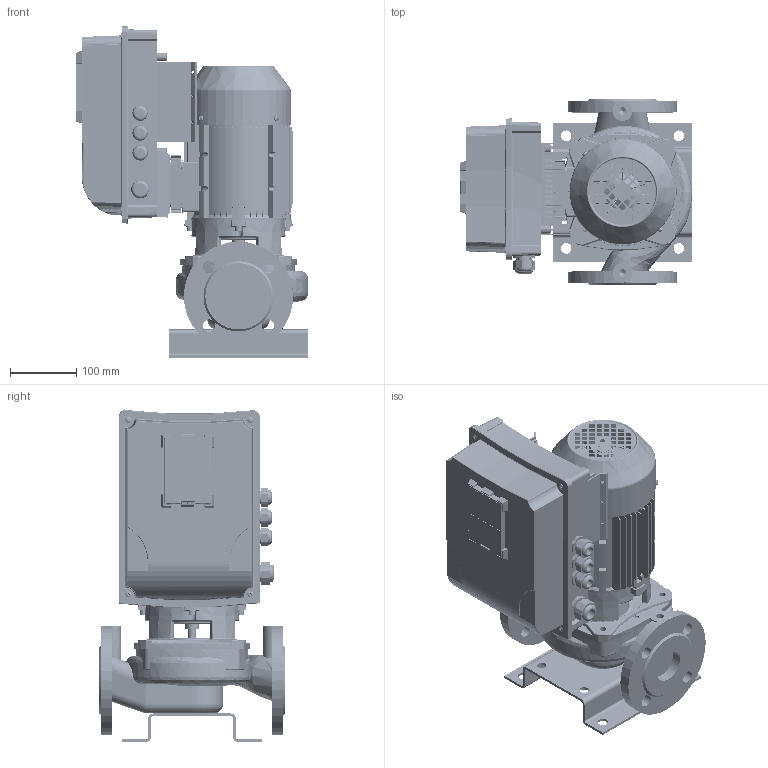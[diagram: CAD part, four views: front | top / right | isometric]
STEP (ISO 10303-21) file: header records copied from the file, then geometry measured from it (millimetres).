
FILE_DESCRIPTION(('STEP AP214'),'1');
FILE_NAME('export.stp','2018-06-01T13:52:01',(' '),(' '),'Spatial InterOp 3D',' ',' ');
FILE_SCHEMA(('AUTOMOTIVE_DESIGN { 1 0 10303 214 1 1 1 1 }'));
Length unit declared in the file: millimetre
Products named in the file (103): W_L50B2110_KPVS; V_TLL50ABC; V_PPL50ABC; V_JALKA35973; Vacon20CP_MS2; MS2_bottom_final; P101407; MS2_cover_final; Vacon_Display; CAD-3D-VACON-M100-Display.sldasm; Vacon_display_pla; Vacon_display_scr; DIN_966-M5x10; M20_tiivisteholkk; M25_tiivisteholkk; MS2_Vac20CP_KP80F; G44212; P101416; 160031; 160001; V_MKP802F15; 160077; 160076___; 160070___; M5x8_DIN; DIN_7985-M5X8; 160141; 160137; Koura_Ale_M5; plain_washer_grade_a_din_Washer_; Assembly_Connection; Connecting_Part; Connection_Strip; hex_nut_style_1_gradeab_din_Hexa; 160039___; 160040___; 160133; Bearing_6204; Bearing_6204_P1; Bearing_6204_P2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
Assembly tree (159 placements, depth 6):
  W_L50B2110_KPVS
    V_TLL50ABC
    V_PPL50ABC
    V_JALKA35973
    MS2_Vac20CP_KP80F
      Vacon20CP_MS2
        MS2_bottom_final
        P101407
        MS2_cover_final
        Vacon_Display
          CAD-3D-VACON-M100-Display.sldasm
          Vacon_display_pla
          Vacon_display_scr
        DIN_966-M5x10  x4
        M20_tiivisteholkk  x3
        M25_tiivisteholkk
      G44212  x2
      P101416
      V_MKP802F15
        160031
          160001
        160077
          160076___
          160070___
        160141
          M5x8_DIN
            DIN_7985-M5X8
          160137
          Koura_Ale_M5
          plain_washer_grade_a_din_Washer_
        Assembly_Connection
          Connecting_Part
          Connection_Strip  x3
          plain_washer_grade_a_din_Washer_  x12
          hex_nut_style_1_gradeab_din_Hexa  x12
        160039___
        160040___
        160133
        Bearing_6204
          Bearing_6204_P1
          Bearing_6204_P2
          Bearing_6204_P3
          Bearing_6204_P4
          Bearing_6204_P5
          Bearing_6204_P6
          Bearing_6204_P7
          Bearing_6204_P8
          Bearing_6204_P9
          Bearing_6204_P10
          Bearing_6204_P11
          Bearing_6204_P12
          Bearing_6204_P13
          Bearing_6204_P14
          Bearing_6204_P15
          Bearing_6204_P16
          Bearing_6204_P17
          Bearing_6204_P18
          Bearing_6204_P19
          Bearing_6204_P20
          Bearing_6204_P21
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Bounding box: 350.31 x 280 x 500.89 mm (x, y, z)
Volume: 7112946.5 mm3; surface area: 2112526.7 mm2
Topology: 147 solids, 1620 shells, 7730 faces, 23551 edges, 17555 vertices
Faces by surface type: plane 2158, cylinder 1994, bspline 1960, torus 949, cone 531, sphere 138
Entity records: 307604 total; most frequent: CARTESIAN_POINT 116602, ORIENTED_EDGE 34370, DIRECTION 27479, EDGE_CURVE 21007, VERTEX_POINT 16087, AXIS2_PLACEMENT_3D 11195, B_SPLINE_CURVE_WITH_KNOTS 8150, EDGE_LOOP 7354
